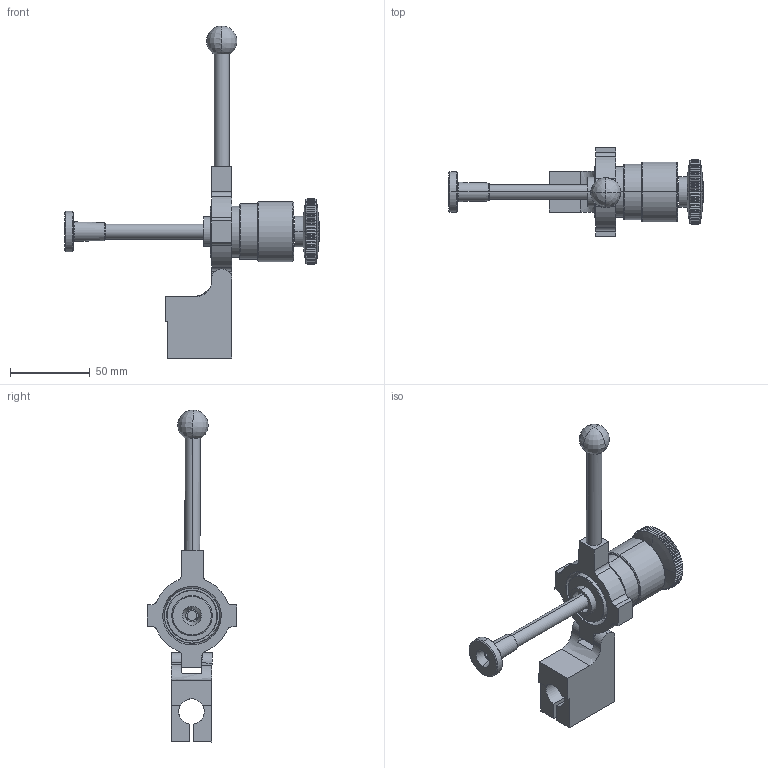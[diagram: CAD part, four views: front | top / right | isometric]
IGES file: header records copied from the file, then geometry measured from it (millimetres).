
Start section: Comment
Global section: file name: 11500.igs; native system:  By Spatial Corp.; preprocessor: XPlus PS/IGES 3.0; author: Author; organization: Title; date: 20180827.131614; units: inch
Bounding box: 159.38 x 55.95 x 208.23 mm (x, y, z)
Surface area: 47255.9 mm2 (no closed solid volume)
Topology: 0 solids, 0 shells, 481 faces, 2599 edges, 2594 vertices
Faces by surface type: revolution 273, extrusion 204, bspline 4
